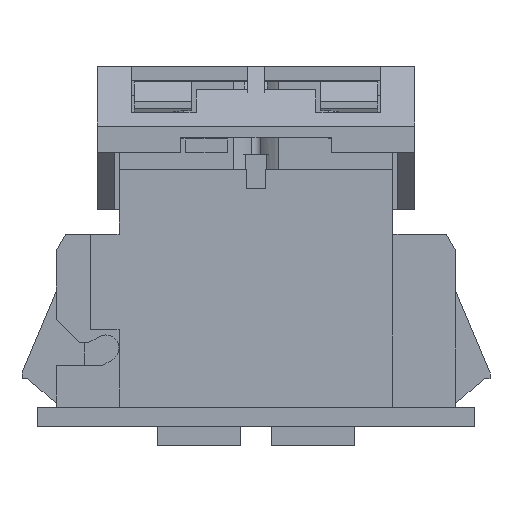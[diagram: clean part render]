
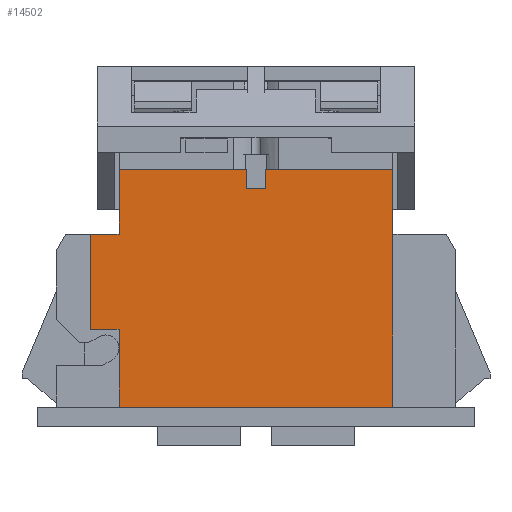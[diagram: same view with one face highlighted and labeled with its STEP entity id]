
A CAD part, front view. The second image highlights one B-rep face of the part: STEP entity #14502.
In plain terms, the highlighted planar face has unit normal (0, -1, 0).
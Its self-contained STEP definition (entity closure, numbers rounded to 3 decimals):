
#1937=ORIENTED_EDGE('',*,*,#4338,.T.);
#1938=ORIENTED_EDGE('',*,*,#4346,.F.);
#1939=ORIENTED_EDGE('',*,*,#4347,.F.);
#1940=ORIENTED_EDGE('',*,*,#4348,.T.);
#1941=ORIENTED_EDGE('',*,*,#4334,.T.);
#1942=ORIENTED_EDGE('',*,*,#4349,.T.);
#1943=ORIENTED_EDGE('',*,*,#4350,.F.);
#1944=ORIENTED_EDGE('',*,*,#4265,.T.);
#1945=ORIENTED_EDGE('',*,*,#4243,.F.);
#1946=ORIENTED_EDGE('',*,*,#4351,.T.);
#1947=ORIENTED_EDGE('',*,*,#4235,.F.);
#1948=ORIENTED_EDGE('',*,*,#4352,.T.);
#4235=EDGE_CURVE('',#5556,#5557,#6661,.T.);
#4243=EDGE_CURVE('',#5563,#5560,#6669,.T.);
#4265=EDGE_CURVE('',#5578,#5560,#6689,.T.);
#4334=EDGE_CURVE('',#5639,#5638,#6756,.T.);
#4338=EDGE_CURVE('',#5643,#5642,#6760,.T.);
#4346=EDGE_CURVE('',#5646,#5642,#6768,.T.);
#4347=EDGE_CURVE('',#5647,#5646,#6769,.T.);
#4348=EDGE_CURVE('',#5647,#5639,#6770,.T.);
#4349=EDGE_CURVE('',#5638,#5648,#6771,.T.);
#4350=EDGE_CURVE('',#5578,#5648,#6772,.T.);
#4351=EDGE_CURVE('',#5563,#5557,#6773,.T.);
#4352=EDGE_CURVE('',#5556,#5643,#6774,.T.);
#5556=VERTEX_POINT('',#20372);
#5557=VERTEX_POINT('',#20374);
#5560=VERTEX_POINT('',#20382);
#5563=VERTEX_POINT('',#20388);
#5578=VERTEX_POINT('',#20430);
#5638=VERTEX_POINT('',#20570);
#5639=VERTEX_POINT('',#20572);
#5642=VERTEX_POINT('',#20578);
#5643=VERTEX_POINT('',#20580);
#5646=VERTEX_POINT('',#20593);
#5647=VERTEX_POINT('',#20595);
#5648=VERTEX_POINT('',#20598);
#6661=LINE('',#20373,#8025);
#6669=LINE('',#20389,#8033);
#6689=LINE('',#20432,#8053);
#6756=LINE('',#20571,#8120);
#6760=LINE('',#20579,#8124);
#6768=LINE('',#20592,#8132);
#6769=LINE('',#20594,#8133);
#6770=LINE('',#20596,#8134);
#6771=LINE('',#20597,#8135);
#6772=LINE('',#20599,#8136);
#6773=LINE('',#20600,#8137);
#6774=LINE('',#20601,#8138);
#8025=VECTOR('',#16754,1000.);
#8033=VECTOR('',#16764,1000.);
#8053=VECTOR('',#16800,1000.);
#8120=VECTOR('',#16891,1000.);
#8124=VECTOR('',#16895,1000.);
#8132=VECTOR('',#16907,1000.);
#8133=VECTOR('',#16908,1000.);
#8134=VECTOR('',#16909,1000.);
#8135=VECTOR('',#16910,1000.);
#8136=VECTOR('',#16911,1000.);
#8137=VECTOR('',#16912,1000.);
#8138=VECTOR('',#16913,1000.);
#9043=EDGE_LOOP('',(#1937,#1938,#1939,#1940,#1941,#1942,#1943,#1944,#1945,
#1946,#1947,#1948));
#9637=FACE_BOUND('',#9043,.T.);
#10147=PLANE('',#15134);
#14502=ADVANCED_FACE('',(#9637),#10147,.F.);
#15134=AXIS2_PLACEMENT_3D('',#20591,#16905,#16906);
#16754=DIRECTION('',(0.,0.,-1.));
#16764=DIRECTION('',(0.,0.,1.));
#16800=DIRECTION('',(-1.,0.,0.));
#16891=DIRECTION('',(0.,0.,-1.));
#16895=DIRECTION('',(0.,0.,-1.));
#16905=DIRECTION('',(0.,1.,0.));
#16906=DIRECTION('',(0.,0.,1.));
#16907=DIRECTION('',(1.,0.,0.));
#16908=DIRECTION('',(0.,0.,1.));
#16909=DIRECTION('',(1.,0.,0.));
#16910=DIRECTION('',(1.,0.,0.));
#16911=DIRECTION('',(0.,0.,-1.));
#16912=DIRECTION('',(-1.,0.,0.));
#16913=DIRECTION('',(-1.,0.,0.));
#20372=CARTESIAN_POINT('',(-0.5,-9.9,9.));
#20373=CARTESIAN_POINT('',(-0.5,-9.9,4.5));
#20374=CARTESIAN_POINT('',(-0.5,-9.9,8.));
#20382=CARTESIAN_POINT('',(0.5,-9.9,9.));
#20388=CARTESIAN_POINT('',(0.5,-9.9,8.));
#20389=CARTESIAN_POINT('',(0.5,-9.9,4.5));
#20430=CARTESIAN_POINT('',(7.2,-9.9,9.));
#20432=CARTESIAN_POINT('',(7.2,-9.9,9.));
#20570=CARTESIAN_POINT('',(-7.2,-9.9,-3.5));
#20571=CARTESIAN_POINT('',(-7.2,-9.9,4.5));
#20572=CARTESIAN_POINT('',(-7.2,-9.9,0.6));
#20578=CARTESIAN_POINT('',(-7.2,-9.9,5.6));
#20579=CARTESIAN_POINT('',(-7.2,-9.9,4.5));
#20580=CARTESIAN_POINT('',(-7.2,-9.9,9.));
#20591=CARTESIAN_POINT('',(-7.2,-9.9,4.5));
#20592=CARTESIAN_POINT('',(-8.7,-9.9,5.6));
#20593=CARTESIAN_POINT('',(-8.7,-9.9,5.6));
#20594=CARTESIAN_POINT('',(-8.7,-9.9,5.6));
#20595=CARTESIAN_POINT('',(-8.7,-9.9,0.6));
#20596=CARTESIAN_POINT('',(-8.7,-9.9,0.6));
#20597=CARTESIAN_POINT('',(-7.2,-9.9,-3.5));
#20598=CARTESIAN_POINT('',(7.2,-9.9,-3.5));
#20599=CARTESIAN_POINT('',(7.2,-9.9,4.5));
#20600=CARTESIAN_POINT('',(-7.2,-9.9,8.));
#20601=CARTESIAN_POINT('',(7.2,-9.9,9.));
